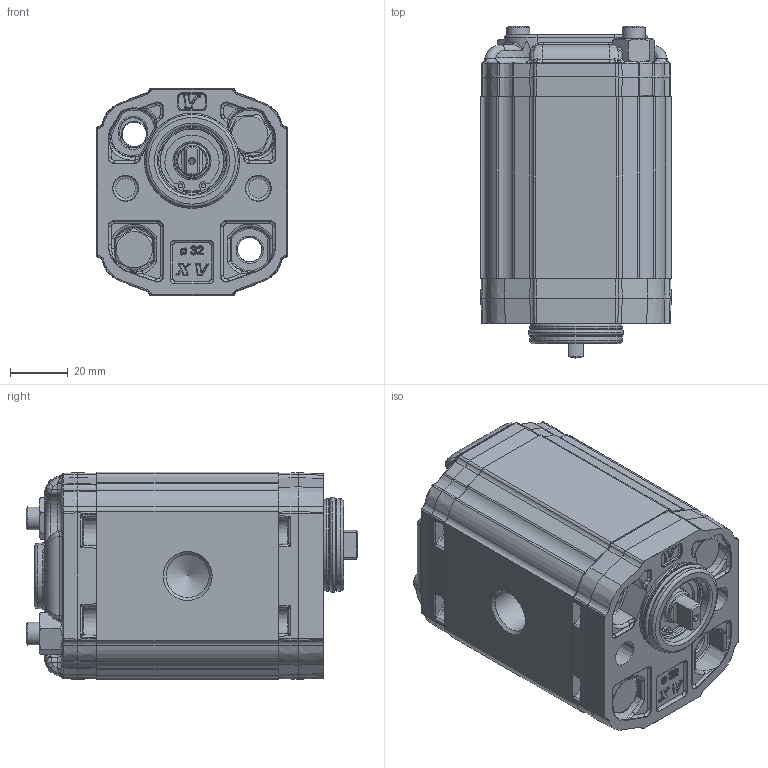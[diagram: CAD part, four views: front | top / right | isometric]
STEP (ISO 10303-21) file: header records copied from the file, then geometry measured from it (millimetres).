
FILE_DESCRIPTION(/* description */ ('Unknown'),/* implementation_level */ '2;1');
FILE_NAME(/* name */ 'X1U3251DBBA',/* time_stamp */ '2026-05-26T18:46:02+02:00',/* author */ ('Unknown'),/* organization */ ('Unknown'),/* preprocessor_version */ 'ST-DEVELOPER v16.7',/* originating_system */ 'Solid Edge',/* authorisation */ 'Unknown');
FILE_SCHEMA (('AUTOMOTIVE_DESIGN {1 0 10303 214 3 1 1}'));
Products named in the file (5): X1U3251DBBA; X1U51; 1D; X1BBH63; XU140-A
Assembly tree (4 placements, depth 2):
  X1U3251DBBA
    X1U51
    1D
    X1BBH63
    XU140-A
Bounding box: 66 x 114.99 x 72 mm (x, y, z)
Volume: 375833.6 mm3; surface area: 70123.6 mm2
Topology: 4 solids, 5 shells, 2562 faces, 6072 edges, 3565 vertices
Faces by surface type: cylinder 761, bspline 645, plane 555, torus 277, cone 239, sphere 85
Full cylindrical faces by diameter (mm): 1.447 x2, 1.5 x1, 8 x6, 8.5 x3, 9 x2, 10 x1, 10.5 x2, 11.965 x1, 12 x1, 12.4 x1, 14.95 x2, 15.115 x1, 17.147 x1, 19 x1, 20 x1, 21.8 x1, 22 x2, 22.2 x1, 23 x1, 24 x1, 29.4 x2, 32 x1, 32.96 x1
Entity records: 138451 total; most frequent: CARTESIAN_POINT 65528, ORIENTED_EDGE 11700, DIRECTION 10990, EDGE_CURVE 5850, AXIS2_PLACEMENT_3D 4545, VERTEX_POINT 3512, FACE_BOUND 2796, EDGE_LOOP 2792
